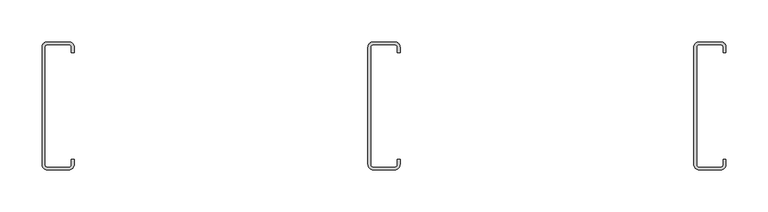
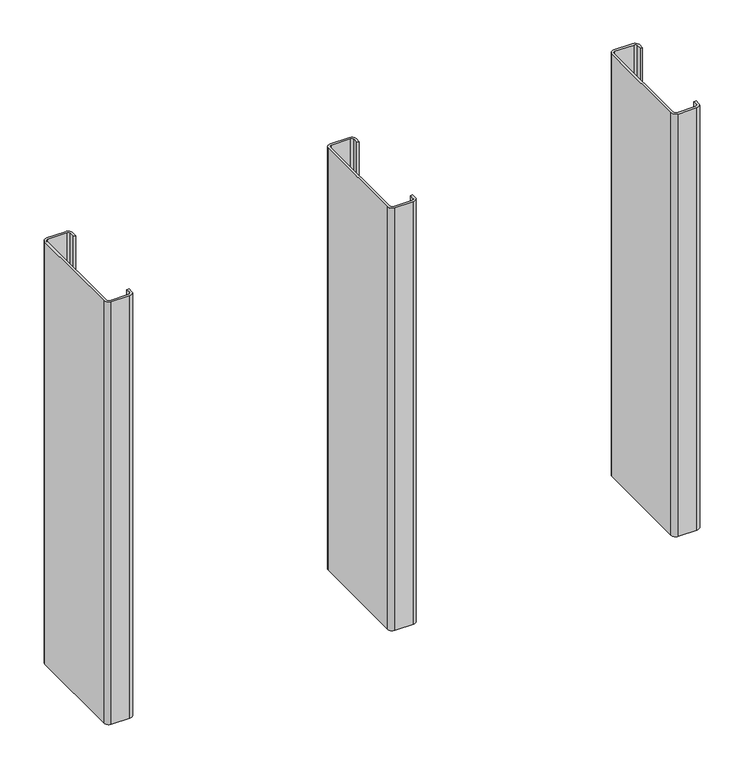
"""IFC4 building model written with IfcOpenShell, lengths in millimetres: proxy geometry, CRAi Generic Model Metal Stud Array : CRAi Generic Model Metal Stud Array."""

from ifc_helpers import new_model, si_unit, point, frame_2d, origin, origin_with_axes, place, context, project, spatial, polyline, circle_curve, trimmed, segment, composite_curve, outline, extrude, source, transform, mapped, element, save


def generic_models_008e5ede(model_context):
    return source(origin(), model_context, "Body", "SweptSolid", [
        extrude(outline(composite_curve([segment(polyline([(406.4, 63.5), (403.225, 63.5), (403.225, 70.2679713)]), True, "CONTINUOUS"), segment(trimmed(circle_curve(frame_2d((400.05, 69.85)), 3.2023936), [point((403.225, 70.2679713))], [point((400.4679713, 73.025))], True, "CARTESIAN"), True, "CONTINUOUS"), segment(polyline([(400.4679713, 73.025), (374.2320287, 73.025)]), True, "CONTINUOUS"), segment(trimmed(circle_curve(frame_2d((374.65, 69.85)), 3.2023936), [point((374.2320287, 73.025))], [point((371.475, 70.2679713))], True, "CARTESIAN"), True, "CONTINUOUS"), segment(polyline([(371.475, 70.2679713), (371.475, -70.2679713)]), True, "CONTINUOUS"), segment(trimmed(circle_curve(frame_2d((374.65, -69.85)), 3.2023936), [point((371.475, -70.2679713))], [point((374.2320287, -73.025))], True, "CARTESIAN"), True, "CONTINUOUS"), segment(polyline([(374.2320287, -73.025), (400.4679713, -73.025)]), True, "CONTINUOUS"), segment(trimmed(circle_curve(frame_2d((400.05, -69.85)), 3.2023936), [point((400.4679713, -73.025))], [point((403.225, -70.2679713))], True, "CARTESIAN"), True, "CONTINUOUS"), segment(polyline([(403.225, -70.2679713), (403.225, -63.5), (406.4, -63.5), (406.4, -69.85)]), True, "CONTINUOUS"), segment(trimmed(circle_curve(frame_2d((400.05, -69.85)), 6.35), [point((406.4, -69.85))], [point((400.05, -76.2))], False, "CARTESIAN"), True, "CONTINUOUS"), segment(polyline([(400.05, -76.2), (374.65, -76.2)]), True, "CONTINUOUS"), segment(trimmed(circle_curve(frame_2d((374.65, -69.85)), 6.35), [point((374.65, -76.2))], [point((368.3, -69.85))], False, "CARTESIAN"), True, "CONTINUOUS"), segment(polyline([(368.3, -69.85), (368.3, 69.85)]), True, "CONTINUOUS"), segment(trimmed(circle_curve(frame_2d((374.65, 69.85)), 6.35), [point((368.3, 69.85))], [point((374.65, 76.2))], False, "CARTESIAN"), True, "CONTINUOUS"), segment(polyline([(374.65, 76.2), (400.05, 76.2)]), True, "CONTINUOUS"), segment(trimmed(circle_curve(frame_2d((400.05, 69.85)), 6.35), [point((400.05, 76.2))], [point((406.4, 69.85))], False, "CARTESIAN"), True, "CONTINUOUS"), segment(polyline([(406.4, 69.85), (406.4, 63.5)]), True, "CONTINUOUS")], self_intersect=False)), origin_with_axes(), (0.0, 0.0, 1.0), 609.6),
        extrude(outline(composite_curve([segment(polyline([(19.05, 63.5), (15.875, 63.5), (15.875, 70.2679713)]), True, "CONTINUOUS"), segment(trimmed(circle_curve(frame_2d((12.7, 69.85)), 3.2023936), [point((15.875, 70.2679713))], [point((13.1179713, 73.025))], True, "CARTESIAN"), True, "CONTINUOUS"), segment(polyline([(13.1179713, 73.025), (-13.1179713, 73.025)]), True, "CONTINUOUS"), segment(trimmed(circle_curve(frame_2d((-12.7, 69.85)), 3.2023936), [point((-13.1179713, 73.025))], [point((-15.875, 70.2679713))], True, "CARTESIAN"), True, "CONTINUOUS"), segment(polyline([(-15.875, 70.2679713), (-15.875, -70.2679713)]), True, "CONTINUOUS"), segment(trimmed(circle_curve(frame_2d((-12.7, -69.85)), 3.2023936), [point((-15.875, -70.2679713))], [point((-13.1179713, -73.025))], True, "CARTESIAN"), True, "CONTINUOUS"), segment(polyline([(-13.1179713, -73.025), (13.1179713, -73.025)]), True, "CONTINUOUS"), segment(trimmed(circle_curve(frame_2d((12.7, -69.85)), 3.2023936), [point((13.1179713, -73.025))], [point((15.875, -70.2679713))], True, "CARTESIAN"), True, "CONTINUOUS"), segment(polyline([(15.875, -70.2679713), (15.875, -63.5), (19.05, -63.5), (19.05, -69.85)]), True, "CONTINUOUS"), segment(trimmed(circle_curve(frame_2d((12.7, -69.85)), 6.35), [point((19.05, -69.85))], [point((12.7, -76.2))], False, "CARTESIAN"), True, "CONTINUOUS"), segment(polyline([(12.7, -76.2), (-12.7, -76.2)]), True, "CONTINUOUS"), segment(trimmed(circle_curve(frame_2d((-12.7, -69.85)), 6.35), [point((-12.7, -76.2))], [point((-19.05, -69.85))], False, "CARTESIAN"), True, "CONTINUOUS"), segment(polyline([(-19.05, -69.85), (-19.05, 69.85)]), True, "CONTINUOUS"), segment(trimmed(circle_curve(frame_2d((-12.7, 69.85)), 6.35), [point((-19.05, 69.85))], [point((-12.7, 76.2))], False, "CARTESIAN"), True, "CONTINUOUS"), segment(polyline([(-12.7, 76.2), (12.7, 76.2)]), True, "CONTINUOUS"), segment(trimmed(circle_curve(frame_2d((12.7, 69.85)), 6.35), [point((12.7, 76.2))], [point((19.05, 69.85))], False, "CARTESIAN"), True, "CONTINUOUS"), segment(polyline([(19.05, 69.85), (19.05, 63.5)]), True, "CONTINUOUS")], self_intersect=False)), origin_with_axes(), (0.0, 0.0, 1.0), 609.6),
        extrude(outline(composite_curve([segment(polyline([(-368.3, 63.5), (-371.475, 63.5), (-371.475, 70.2679713)]), True, "CONTINUOUS"), segment(trimmed(circle_curve(frame_2d((-374.65, 69.85)), 3.2023936), [point((-371.475, 70.2679713))], [point((-374.2320287, 73.025))], True, "CARTESIAN"), True, "CONTINUOUS"), segment(polyline([(-374.2320287, 73.025), (-400.4679713, 73.025)]), True, "CONTINUOUS"), segment(trimmed(circle_curve(frame_2d((-400.05, 69.85)), 3.2023936), [point((-400.4679713, 73.025))], [point((-403.225, 70.2679713))], True, "CARTESIAN"), True, "CONTINUOUS"), segment(polyline([(-403.225, 70.2679713), (-403.225, -70.2679713)]), True, "CONTINUOUS"), segment(trimmed(circle_curve(frame_2d((-400.05, -69.85)), 3.2023936), [point((-403.225, -70.2679713))], [point((-400.4679713, -73.025))], True, "CARTESIAN"), True, "CONTINUOUS"), segment(polyline([(-400.4679713, -73.025), (-374.2320287, -73.025)]), True, "CONTINUOUS"), segment(trimmed(circle_curve(frame_2d((-374.65, -69.85)), 3.2023936), [point((-374.2320287, -73.025))], [point((-371.475, -70.2679713))], True, "CARTESIAN"), True, "CONTINUOUS"), segment(polyline([(-371.475, -70.2679713), (-371.475, -63.5), (-368.3, -63.5), (-368.3, -69.85)]), True, "CONTINUOUS"), segment(trimmed(circle_curve(frame_2d((-374.65, -69.85)), 6.35), [point((-368.3, -69.85))], [point((-374.65, -76.2))], False, "CARTESIAN"), True, "CONTINUOUS"), segment(polyline([(-374.65, -76.2), (-400.05, -76.2)]), True, "CONTINUOUS"), segment(trimmed(circle_curve(frame_2d((-400.05, -69.85)), 6.35), [point((-400.05, -76.2))], [point((-406.4, -69.85))], False, "CARTESIAN"), True, "CONTINUOUS"), segment(polyline([(-406.4, -69.85), (-406.4, 69.85)]), True, "CONTINUOUS"), segment(trimmed(circle_curve(frame_2d((-400.05, 69.85)), 6.35), [point((-406.4, 69.85))], [point((-400.05, 76.2))], False, "CARTESIAN"), True, "CONTINUOUS"), segment(polyline([(-400.05, 76.2), (-374.65, 76.2)]), True, "CONTINUOUS"), segment(trimmed(circle_curve(frame_2d((-374.65, 69.85)), 6.35), [point((-374.65, 76.2))], [point((-368.3, 69.85))], False, "CARTESIAN"), True, "CONTINUOUS"), segment(polyline([(-368.3, 69.85), (-368.3, 63.5)]), True, "CONTINUOUS")], self_intersect=False)), origin_with_axes(), (0.0, 0.0, 1.0), 609.6),
    ])


if __name__ == "__main__":
    model = new_model("IFC4")
    model_context = context("Model", 3, world=origin())
    ifc_project = project(units=[si_unit("LENGTHUNIT", "METRE", prefix="MILLI")], contexts=[model_context])
    site = spatial("IfcSite", under=ifc_project)
    building = spatial("IfcBuilding", under=site)
    placement = place(None, origin())
    generic_models_shape = generic_models_008e5ede(model_context)
    element("IfcBuildingElementProxy", 1, Name="CRAi Generic Model Metal Stud Array : CRAi Generic Model Metal Stud Array", ObjectType="CRAi Generic Model Metal Stud Array : CRAi Generic Model Metal Stud Array", at=placement, inside=building, context=model_context, shape_type="MappedRepresentation", body=[
        mapped(generic_models_shape, transform((0.0, 0.0, 0.0), x_axis=(1.0, 0.0, 0.0), y_axis=(0.0, 1.0, 0.0), z_axis=(0.0, 0.0, 1.0))),
    ])
    save(model, "model.ifc")
